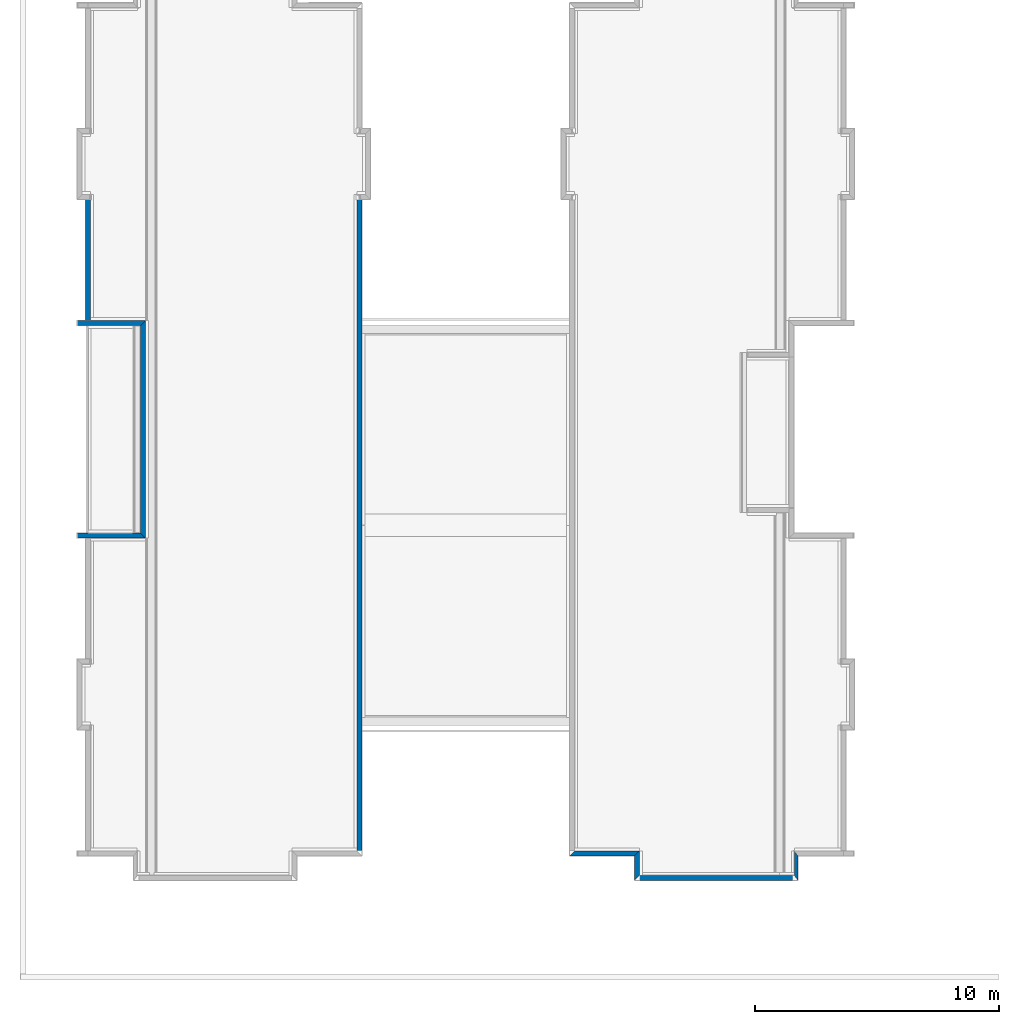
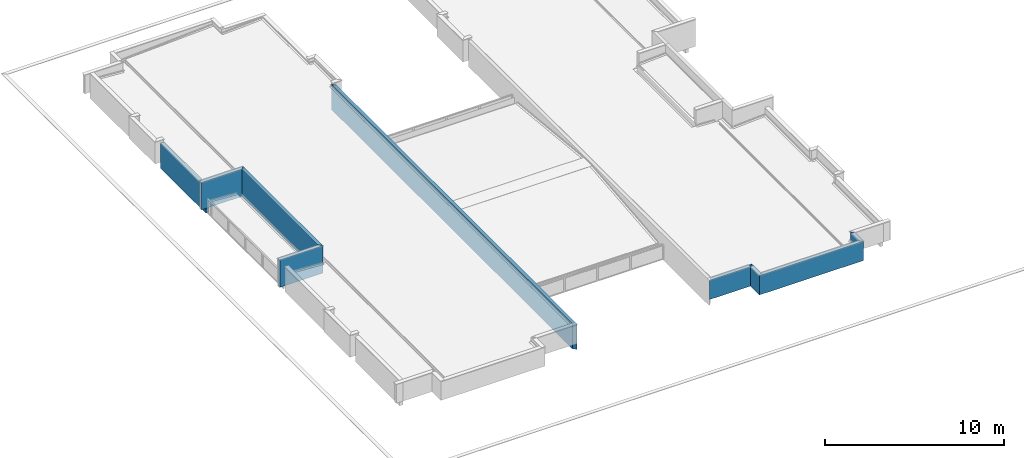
# One storey, part 2 of 25: 9 walls, 2 openings.
"""IFC4 building model written with IfcOpenShell, lengths in metres."""

from ifc_helpers import new_model, entity, si_unit, converted_unit, derived_unit, direction, frame, origin_with_axes, origin_2d_with_axis, place, context, subcontext, project, spatial, line, indexed_curve, rectangle, outline, extrude, material, layer, layer_set, layer_usage, type_object, element, save


model = new_model("IFC4")

# Units and contexts
model_context = context("Model", 3, precision=1e-05, world=origin_with_axes(), true_north=direction((0.0, 1.0)))
body_context = subcontext(model_context, "Body", "Model", "MODEL_VIEW")
ifc_project = project(units=[si_unit("LENGTHUNIT", "METRE"), si_unit("AREAUNIT", "SQUARE_METRE"), si_unit("VOLUMEUNIT", "CUBIC_METRE"), converted_unit("PLANEANGLEUNIT", "DEGREE", entity("IfcPlaneAngleMeasure", 0.0174532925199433), si_unit("PLANEANGLEUNIT", "RADIAN"), dimensions=[0, 0, 0, 0, 0, 0, 0]), converted_unit("TIMEUNIT", "Year", entity("IfcTimeMeasure", 31557600.0), si_unit("TIMEUNIT", "SECOND"), dimensions=[0, 0, 1, 0, 0, 0, 0]), si_unit("MASSUNIT", "GRAM", prefix="KILO"), si_unit("THERMODYNAMICTEMPERATUREUNIT", "DEGREE_CELSIUS"), si_unit("LUMINOUSINTENSITYUNIT", "LUMEN"), si_unit("ENERGYUNIT", "JOULE", prefix="MEGA"), derived_unit("THERMALCONDUCTANCEUNIT", [(si_unit("POWERUNIT", "WATT"), 1), (si_unit("LENGTHUNIT", "METRE"), -1), (si_unit("THERMODYNAMICTEMPERATUREUNIT", "KELVIN"), -1)]), derived_unit("SPECIFICHEATCAPACITYUNIT", [(si_unit("ENERGYUNIT", "JOULE"), 1), (si_unit("MASSUNIT", "GRAM", prefix="KILO"), -1), (si_unit("THERMODYNAMICTEMPERATUREUNIT", "KELVIN"), -1)]), derived_unit("MASSDENSITYUNIT", [(si_unit("MASSUNIT", "GRAM", prefix="KILO"), 1), (si_unit("VOLUMEUNIT", "CUBIC_METRE"), -1)])], contexts=[model_context])

# Site, building, storey
site_placement = place(None, origin_with_axes())
site = spatial("IfcSite", under=ifc_project, at=site_placement, Name="PADRÃO", CompositionType="ELEMENT")
building_placement = place(site_placement, origin_with_axes())
building = spatial("IfcBuilding", under=site, at=building_placement, Name="CRECHE PRÉ-ESCOLA TIPO 2", CompositionType="ELEMENT")
storey_placement = place(building_placement, frame((0.0, 0.0, 3.26), z_axis=(0.0, 0.0, 1.0), x_axis=(1.0, 0.0, 0.0)))
storey = spatial("IfcBuildingStorey", under=building, at=storey_placement, Name="COBERTURA", CompositionType="ELEMENT", Elevation=3.26)

# Walls
ifc_material_1 = material(Name="EI-REV-Pintura Acrílica Cor Branco Gelo")
ifc_layer_1 = layer(ifc_material_1, 0.015, ventilated="UNKNOWN", Name="EI-REV-Pintura Acrílica Cor Branco Gelo 1")
ifc_material_2 = material(Name="EI-REV-Massa Acrílica (externa)")
ifc_layer_2 = layer(ifc_material_2, 0.005, ventilated="UNKNOWN", Name="EI-REV-Massa Acrílica (externa) 1")
ifc_material_3 = material(Name="EI-REV-Massa única - Fachada")
ifc_layer_3 = layer(ifc_material_3, 0.005, ventilated="UNKNOWN", Name="EI-REV-Massa única - Fachada 1")
ifc_material_4 = material(Name="EI-REV-Chapisco (externo)")
ifc_layer_4 = layer(ifc_material_4, 0.005, ventilated="UNKNOWN", Name="EI-REV-Chapisco (externo) 1")
ifc_material_5 = material(Name="TIJOLO - CERAMICO 9x19x39 - espessura 15cm")
ifc_layer_5 = layer(ifc_material_5, 0.09, ventilated="UNKNOWN", Name="TIJOLO - CERAMICO 9x19x39 - espessura 15cm")
ifc_layer_6 = layer(ifc_material_4, 0.005, ventilated="UNKNOWN", Name="EI-REV-Chapisco (externo) 2")
ifc_layer_7 = layer(ifc_material_3, 0.005, ventilated="UNKNOWN", Name="EI-REV-Massa única - Fachada 2")
ifc_layer_8 = layer(ifc_material_2, 0.005, ventilated="UNKNOWN", Name="EI-REV-Massa Acrílica (externa) 2")
ifc_layer_9 = layer(ifc_material_1, 0.015, ventilated="UNKNOWN", Name="EI-REV-Pintura Acrílica Cor Branco Gelo 2")
ifc_layer_set_1 = layer_set([ifc_layer_1, ifc_layer_2, ifc_layer_3, ifc_layer_4, ifc_layer_5, ifc_layer_6, ifc_layer_7, ifc_layer_8, ifc_layer_9], Name="FNDE-PLAT_AL09-Pintura Branca")
ifc_layer_usage_1 = layer_usage(ifc_layer_set_1, "AXIS2", "POSITIVE", -0.075)
wall_type_1 = type_object("IfcWallType", Name="FNDE-PLAT_AL09-Pintura Branca 150", PredefinedType="NOTDEFINED")
wall_1_placement = place(storey_placement, frame((-8.27504276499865, 4.15022062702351, 0.0), z_axis=(0.0, 0.0, 1.0), x_axis=(0.0, 1.0, 0.0)))
element("IfcWall", 1, at=wall_1_placement, inside=storey, type_object=wall_type_1, material=ifc_layer_usage_1, Name="AL09", PredefinedType="NOTDEFINED", context=body_context, shape_type="SweptSolid", body=[
    extrude(outline(indexed_curve([(-0.100000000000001, -0.0749999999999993), (0.899935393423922, -0.0749999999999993), (1.09993539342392, 0.0749999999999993), (0.0999999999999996, 0.0749999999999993)], segments=[line(1, 2, 3, 4, 1)])), origin_with_axes(), (0.0, 0.0, 1.0), 1.31),
])
ifc_layer_10 = layer(ifc_material_1, 0.015, ventilated="UNKNOWN", Name="EI-REV-Pintura Acrílica Cor Branco Gelo 1")
ifc_layer_11 = layer(ifc_material_2, 0.005, ventilated="UNKNOWN", Name="EI-REV-Massa Acrílica (externa) 1")
ifc_layer_12 = layer(ifc_material_3, 0.005, ventilated="UNKNOWN", Name="EI-REV-Massa única - Fachada 1")
ifc_layer_13 = layer(ifc_material_4, 0.005, ventilated="UNKNOWN", Name="EI-REV-Chapisco (externo) 1")
ifc_material_6 = material(Name="TIJOLO - CERAMICO 14x19x39 - espessura 20cm")
ifc_layer_14 = layer(ifc_material_6, 0.14, ventilated="UNKNOWN", Name="TIJOLO - CERAMICO 14x19x39 - espessura 20cm")
ifc_layer_15 = layer(ifc_material_4, 0.005, ventilated="UNKNOWN", Name="EI-REV-Chapisco (externo) 2")
ifc_layer_16 = layer(ifc_material_3, 0.005, ventilated="UNKNOWN", Name="EI-REV-Massa única - Fachada 2")
ifc_layer_17 = layer(ifc_material_2, 0.005, ventilated="UNKNOWN", Name="EI-REV-Massa Acrílica (externa) 2")
ifc_layer_18 = layer(ifc_material_1, 0.015, ventilated="UNKNOWN", Name="EI-REV-Pintura Acrílica Cor Branco Gelo 2")
ifc_layer_set_2 = layer_set([ifc_layer_10, ifc_layer_11, ifc_layer_12, ifc_layer_13, ifc_layer_14, ifc_layer_15, ifc_layer_16, ifc_layer_17, ifc_layer_18], Name="FNDE-PLAT_AL14-Pintura Branca")
ifc_layer_usage_2 = layer_usage(ifc_layer_set_2, "AXIS2", "POSITIVE", -0.1)
wall_type_2 = type_object("IfcWallType", Name="FNDE-PLAT_AL14-Pintura Branca 200", PredefinedType="NOTDEFINED")
wall_2_placement = place(storey_placement, frame((-34.9900730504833, 26.8500554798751, 0.0), z_axis=(0.0, 0.0, 1.0), x_axis=(4.26809234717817e-06, -0.999999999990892, 0.0)))
element("IfcWall", 2, at=wall_2_placement, inside=storey, type_object=wall_type_2, material=ifc_layer_usage_2, Name="AL14", PredefinedType="NOTDEFINED", context=body_context, shape_type="SweptSolid", body=[
    extrude(outline(indexed_curve([(0.0999995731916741, -0.0999999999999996), (8.60005308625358, -0.100000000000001), (8.80005393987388, 0.100000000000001), (-0.0999995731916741, 0.0999999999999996)], segments=[line(1, 2, 3, 4, 1)])), origin_with_axes(), (0.0, 0.0, 1.0), 1.86),
])
ifc_layer_usage_3 = layer_usage(ifc_layer_set_2, "AXIS2", "NEGATIVE", 0.1)
wall_3_placement = place(storey_placement, frame((-37.2401038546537, 26.8500026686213, -0.409999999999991), z_axis=(0.0, 0.0, 1.0), x_axis=(-3.33213641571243e-08, 0.999999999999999, 0.0)))
element("IfcWall", 3, at=wall_3_placement, inside=storey, type_object=wall_type_2, material=ifc_layer_usage_3, Name="AL14", PredefinedType="NOTDEFINED", context=body_context, shape_type="SweptSolid", body=[
    extrude(outline(indexed_curve([(0.0, -0.1), (5.04999925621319, -0.100000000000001), (5.04999928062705, 0.0999999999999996), (0.0, 0.0999999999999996)], segments=[line(1, 2, 3, 4, 1)])), origin_with_axes(), (0.0, 0.0, 1.0), 1.72),
])
ifc_layer_usage_4 = layer_usage(ifc_layer_set_2, "AXIS2", "NEGATIVE", 0.1)
wall_4_placement = place(storey_placement, frame((-14.7900427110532, 4.15022062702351, 0.0), z_axis=(0.0, 0.0, 1.0), x_axis=(0.0, 1.0, 0.0)))
element("IfcWall", 4, at=wall_4_placement, inside=storey, type_object=wall_type_2, material=ifc_layer_usage_4, Name="AL14", PredefinedType="NOTDEFINED", context=body_context, shape_type="SweptSolid", body=[
    extrude(outline(indexed_curve([(0.0999999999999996, -0.100000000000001), (1.09993539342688, -0.100000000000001), (0.899935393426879, 0.0999999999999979), (-0.100000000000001, 0.0999999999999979)], segments=[line(1, 2, 3, 4, 1)])), origin_with_axes(), (0.0, 0.0, 1.0), 1.31),
])
ifc_layer_usage_5 = layer_usage(ifc_layer_set_2, "AXIS2", "NEGATIVE", 0.1)
wall_5_placement = place(storey_placement, frame((-26.1400963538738, 5.15007093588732, -0.409999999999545), z_axis=(0.0, 0.0, 1.0), x_axis=(0.0, 1.0, 0.0)))
element("IfcWall", 5, at=wall_5_placement, inside=storey, type_object=wall_type_2, material=ifc_layer_usage_5, Name="AL14", PredefinedType="NOTDEFINED", context=body_context, shape_type="SweptSolid", body=[
    extrude(outline(indexed_curve([(-0.0999999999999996, -0.0999999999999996), (26.7501180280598, -0.0999999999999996), (26.9501180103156, 0.0999999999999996), (0.100000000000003, 0.0999999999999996)], segments=[line(1, 2, 3, 4, 1)])), origin_with_axes(), (0.0, 0.0, 1.0), 1.72),
])
ifc_layer_usage_6 = layer_usage(ifc_layer_set_2, "AXIS2", "NEGATIVE", 0.1)
wall_6_placement = place(storey_placement, frame((-8.27504276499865, 4.15022062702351, 0.0), z_axis=(0.0, 0.0, 1.0), x_axis=(-1.0, 0.0, 0.0)))
element("IfcWall", 6, at=wall_6_placement, inside=storey, type_object=wall_type_2, material=ifc_layer_usage_6, Name="AL14", PredefinedType="NOTDEFINED", context=body_context, shape_type="SweptSolid", body=[
    extrude(outline(indexed_curve([(0.0749999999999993, -0.0999999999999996), (6.41499994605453, -0.0999999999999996), (6.61499994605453, 0.100000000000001), (-0.0749999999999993, 0.100000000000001)], segments=[line(1, 2, 3, 4, 1)])), origin_with_axes(), (0.0, 0.0, 1.0), 1.31),
])

# Wall, opening
ifc_material_7 = material(Name="EI-REV-Pintura Acrílica Cor Cinza")
ifc_layer_19 = layer(ifc_material_7, 0.015, ventilated="UNKNOWN", Name="EI-REV-Pintura Acrílica Cor Cinza 1")
ifc_layer_20 = layer(ifc_material_2, 0.005, ventilated="UNKNOWN", Name="EI-REV-Massa Acrílica (externa) 1")
ifc_layer_21 = layer(ifc_material_3, 0.005, ventilated="UNKNOWN", Name="EI-REV-Massa única - Fachada 1")
ifc_layer_22 = layer(ifc_material_4, 0.005, ventilated="UNKNOWN", Name="EI-REV-Chapisco (externo) 1")
ifc_layer_23 = layer(ifc_material_6, 0.14, ventilated="UNKNOWN", Name="TIJOLO - CERAMICO 14x19x39 - espessura 20cm")
ifc_layer_24 = layer(ifc_material_4, 0.005, ventilated="UNKNOWN", Name="EI-REV-Chapisco (externo) 2")
ifc_layer_25 = layer(ifc_material_3, 0.005, ventilated="UNKNOWN", Name="EI-REV-Massa única - Fachada 2")
ifc_layer_26 = layer(ifc_material_2, 0.005, ventilated="UNKNOWN", Name="EI-REV-Massa Acrílica (externa) 2")
ifc_layer_27 = layer(ifc_material_7, 0.015, ventilated="UNKNOWN", Name="EI-REV-Pintura Acrílica Cor Cinza 2")
ifc_layer_set_3 = layer_set([ifc_layer_19, ifc_layer_20, ifc_layer_21, ifc_layer_22, ifc_layer_23, ifc_layer_24, ifc_layer_25, ifc_layer_26, ifc_layer_27], Name="FNDE-PLAT_AL14-Pintura cinza")
ifc_layer_usage_7 = layer_usage(ifc_layer_set_3, "AXIS2", "POSITIVE", -0.1)
wall_type_3 = type_object("IfcWallType", Name="FNDE-PLAT_AL14-Pintura cinza 200", PredefinedType="NOTDEFINED")
wall_7_placement = place(storey_placement, frame((-37.6900464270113, 26.8500554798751, 0.0), z_axis=(0.0, 0.0, 1.0), x_axis=(1.0, 0.0, 0.0)))
wall_7 = element("IfcWall", 7, at=wall_7_placement, inside=storey, type_object=wall_type_3, material=ifc_layer_usage_7, Name="AL14", PredefinedType="NOTDEFINED", context=body_context, shape_type="SweptSolid", body=[
    extrude(outline(indexed_curve([(0.0, -0.100000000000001), (2.59997380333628, -0.100000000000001), (2.79997294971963, 0.0999999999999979), (0.0, 0.0999999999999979)], segments=[line(1, 2, 3, 4, 1)])), origin_with_axes(), (0.0, 0.0, 1.0), 1.86),
])
opening_1_placement = place(wall_7_placement, origin_with_axes())
element("IfcOpeningElement", 8, at=opening_1_placement, cuts=wall_7, Name="AL14", context=body_context, shape_type="SweptSolid", body=[
    extrude(rectangle(XDim=0.199999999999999, YDim=0.0150000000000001, at=origin_2d_with_axis()), frame((0.00750000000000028, 0.0, 0.0), z_axis=(0.0, 0.0, 1.0), x_axis=(0.0, 1.0, 0.0)), (0.0, 0.0, 1.0), 1.86),
    extrude(rectangle(XDim=0.184999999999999, YDim=0.00499999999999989, at=origin_2d_with_axis()), frame((0.0175000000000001, 0.00749999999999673, 0.0), z_axis=(0.0, 0.0, 1.0), x_axis=(0.0, 1.0, 0.0)), (0.0, 0.0, 1.0), 1.86),
    extrude(rectangle(XDim=0.18, YDim=0.00499999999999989, at=origin_2d_with_axis()), frame((0.0225, 0.00999999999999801, 0.0), z_axis=(0.0, 0.0, 1.0), x_axis=(0.0, 1.0, 0.0)), (0.0, 0.0, 1.0), 1.86),
])

ifc_layer_usage_8 = layer_usage(ifc_layer_set_3, "AXIS2", "POSITIVE", -0.1)
wall_8_placement = place(storey_placement, frame((-34.9900359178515, 18.1500019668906, 0.0), z_axis=(0.0, 0.0, 1.0), x_axis=(-1.0, 0.0, 0.0)))
wall_8 = element("IfcWall", 9, at=wall_8_placement, inside=storey, type_object=wall_type_3, material=ifc_layer_usage_8, Name="AL14", PredefinedType="NOTDEFINED", context=body_context, shape_type="SweptSolid", body=[
    extrude(outline(indexed_curve([(0.100000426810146, -0.100000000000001), (2.70001050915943, -0.100000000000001), (2.70001050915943, 0.0999999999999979), (-0.100000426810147, 0.0999999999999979)], segments=[line(1, 2, 3, 4, 1)])), origin_with_axes(), (0.0, 0.0, 1.0), 1.86),
])
opening_2_placement = place(wall_8_placement, frame((2.70001050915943, 0.0, 0.0), z_axis=(0.0, 0.0, 1.0), x_axis=(1.0, 0.0, 0.0)))
element("IfcOpeningElement", 10, at=opening_2_placement, cuts=wall_8, Name="AL14", context=body_context, shape_type="SweptSolid", body=[
    extrude(rectangle(XDim=0.199999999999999, YDim=0.0150000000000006, at=origin_2d_with_axis()), frame((-0.00750000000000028, 0.0, 0.0), z_axis=(0.0, 0.0, 1.0), x_axis=(0.0, -1.0, 0.0)), (0.0, 0.0, 1.0), 1.86),
    extrude(rectangle(XDim=0.184999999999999, YDim=0.00500000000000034, at=origin_2d_with_axis()), frame((-0.0175000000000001, 0.00750000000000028, 0.0), z_axis=(0.0, 0.0, 1.0), x_axis=(0.0, -1.0, 0.0)), (0.0, 0.0, 1.0), 1.86),
    extrude(rectangle(XDim=0.18, YDim=0.00500000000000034, at=origin_2d_with_axis()), frame((-0.0225, 0.00999999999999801, 0.0), z_axis=(0.0, 0.0, 1.0), x_axis=(0.0, -1.0, 0.0)), (0.0, 0.0, 1.0), 1.86),
])

# Wall
ifc_layer_usage_9 = layer_usage(ifc_layer_set_3, "AXIS2", "NEGATIVE", 0.1)
wall_9_placement = place(storey_placement, frame((-14.7900427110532, 5.15015602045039, 0.0), z_axis=(0.0, 0.0, 1.0), x_axis=(-1.0, 0.0, 0.0)))
element("IfcWall", 11, at=wall_9_placement, inside=storey, type_object=wall_type_3, material=ifc_layer_usage_9, Name="AL14", PredefinedType="NOTDEFINED", context=body_context, shape_type="SweptSolid", body=[
    extrude(outline(indexed_curve([(-0.100000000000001, -0.0999999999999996), (2.55000781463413, -0.0999999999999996), (2.75000781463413, 0.100000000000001), (0.0999999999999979, 0.100000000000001)], segments=[line(1, 2, 3, 4, 1)])), origin_with_axes(), (0.0, 0.0, 1.0), 1.31),
])

save(model, "model.ifc")
